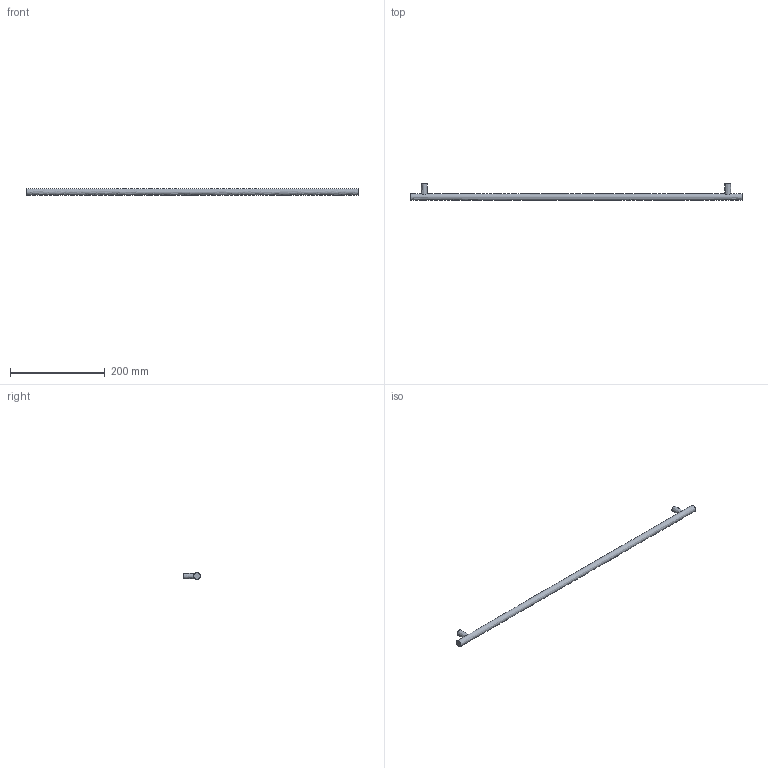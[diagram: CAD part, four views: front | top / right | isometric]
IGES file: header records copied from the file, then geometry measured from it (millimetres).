
Start section: Data from Parasolid IGES Translator 15.0.47, Copyright(c) 2006 Siemens P LM Software. All Rights Reserved.
Global section: file name: 9071112.igs; native system:  By UGS Corp.; preprocessor: XPlus GENERIC/IGES 3.0; author: Noname; organization: Noname; date: 20140122.181440; units: millimetre
Bounding box: 700 x 35 x 14 mm (x, y, z)
Surface area: 33067.3 mm2 (no closed solid volume)
Topology: 0 solids, 0 shells, 11 faces, 30 edges, 22 vertices
Faces by surface type: extrusion 6, revolution 5
